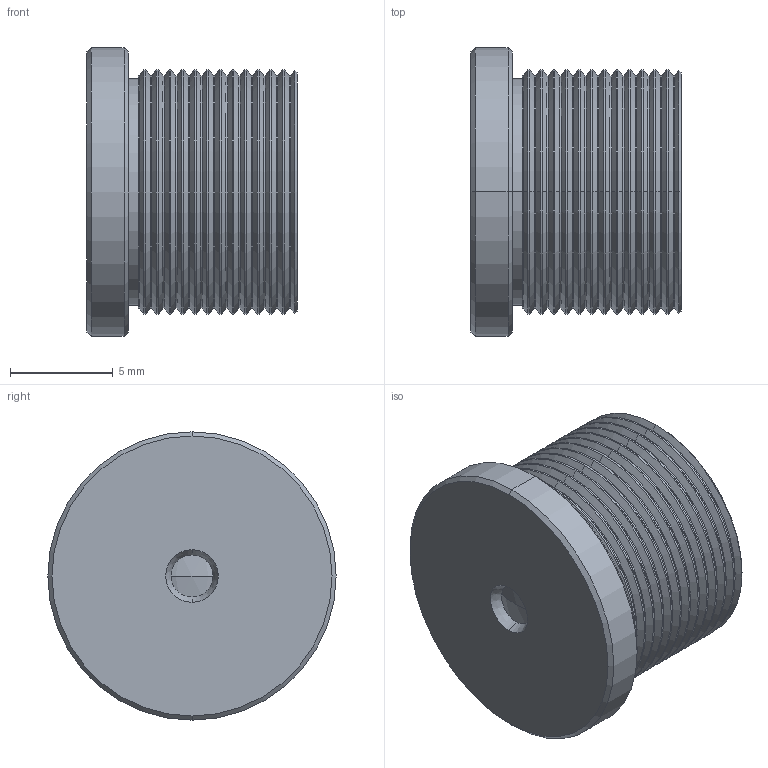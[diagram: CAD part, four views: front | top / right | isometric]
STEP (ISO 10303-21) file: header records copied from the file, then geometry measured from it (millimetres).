
FILE_DESCRIPTION (( 'STEP AP214' ), '1' );
FILE_NAME ('AD2121-.STEP', '2020-07-16T05:57:57', ( '' ), ( '' ), 'SwSTEP 2.0', 'SolidWorks 2010', '' );
FILE_SCHEMA (( 'AUTOMOTIVE_DESIGN' ));
Length unit declared in the file: millimetre
Products named in the file (1): AD2121-
Bounding box: 10.2 x 14 x 14 mm (x, y, z)
Volume: 1105.3 mm3; surface area: 902.4 mm2
Topology: 1 solids, 1 shells, 128 faces, 258 edges, 138 vertices
Faces by surface type: cone 60, cylinder 58, plane 6, sphere 4
Entity records: 3300 total; most frequent: DIRECTION 656, CARTESIAN_POINT 525, ORIENTED_EDGE 516, AXIS2_PLACEMENT_3D 269, EDGE_CURVE 258, CIRCLE 140, VERTEX_POINT 138, EDGE_LOOP 134
